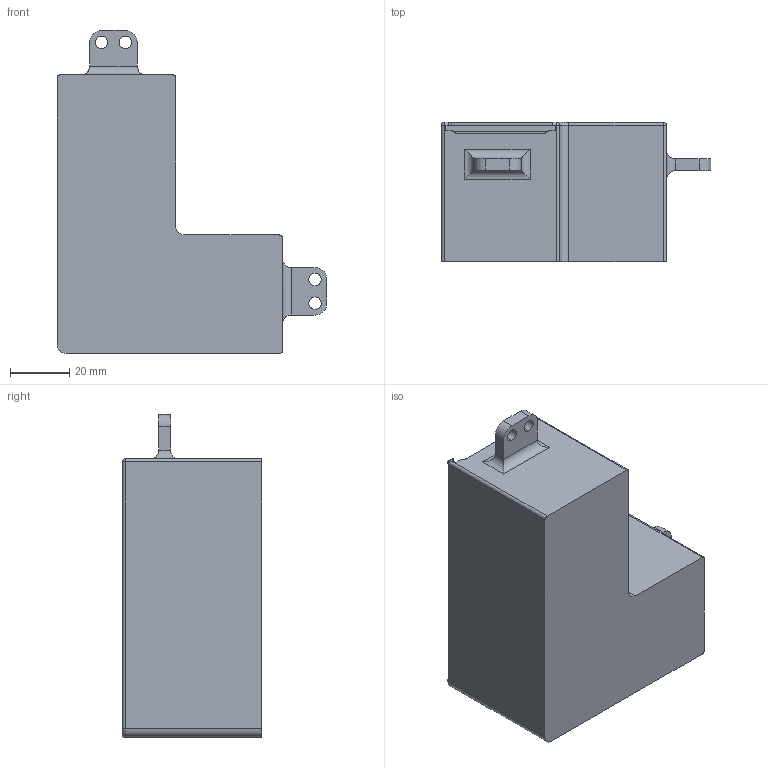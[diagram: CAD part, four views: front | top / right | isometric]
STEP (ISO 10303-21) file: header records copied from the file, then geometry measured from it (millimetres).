
FILE_DESCRIPTION (( 'STEP AP203' ), '1' );
FILE_NAME ('Ballast Holder.STEP', '2025-05-08T01:56:25', ( '' ), ( '' ), 'SwSTEP 2.0', 'SolidWorks 2023', '' );
FILE_SCHEMA (( 'CONFIG_CONTROL_DESIGN' ));
Length unit declared in the file: millimetre
Products named in the file (1): Ballast Holder
Bounding box: 91 x 47 x 109 mm (x, y, z)
Volume: 84058.2 mm3; surface area: 64335.6 mm2
Topology: 1 solids, 1 shells, 163 faces, 411 edges, 262 vertices
Faces by surface type: plane 110, cylinder 47, sphere 4, torus 2
Entity records: 4890 total; most frequent: CARTESIAN_POINT 857, ORIENTED_EDGE 814, DIRECTION 807, EDGE_CURVE 407, LINE 319, VECTOR 319, VERTEX_POINT 262, AXIS2_PLACEMENT_3D 244
